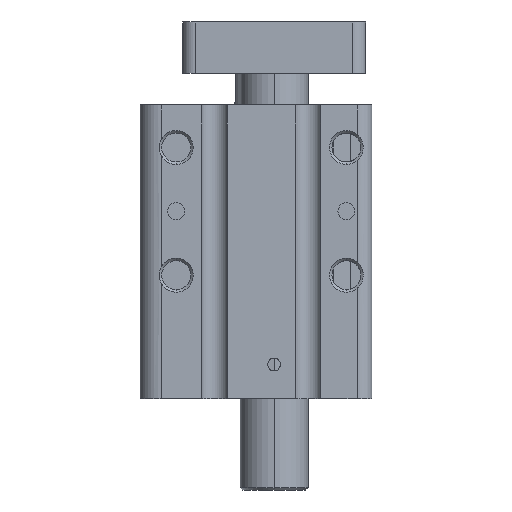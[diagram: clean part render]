
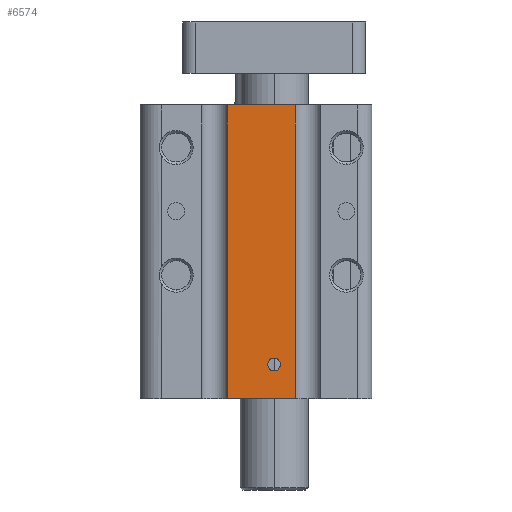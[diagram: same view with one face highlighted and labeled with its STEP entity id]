
A CAD part, left-side view. The second image highlights one B-rep face of the part: STEP entity #6574.
In plain terms, the highlighted planar face has unit normal (-1, 0, 0).
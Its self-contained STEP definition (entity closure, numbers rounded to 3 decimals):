
#331=DIRECTION('',(0.,1.,0.));
#332=VECTOR('',#331,16.);
#333=CARTESIAN_POINT('',(-62.,-9.,0.));
#334=LINE('',#333,#332);
#609=DIRECTION('',(0.,1.,0.));
#610=VECTOR('',#609,16.);
#611=CARTESIAN_POINT('',(-62.,-9.,-69.));
#612=LINE('',#611,#610);
#2190=DIRECTION('',(0.,0.,-1.));
#2191=VECTOR('',#2190,69.);
#2192=CARTESIAN_POINT('',(-62.,-9.,0.));
#2193=LINE('',#2192,#2191);
#2194=CARTESIAN_POINT('',(-62.,-4.,-61.));
#2195=DIRECTION('',(-1.,0.,0.));
#2196=DIRECTION('',(0.,1.,0.));
#2197=AXIS2_PLACEMENT_3D('',#2194,#2195,#2196);
#2199=CARTESIAN_POINT('',(-62.,-4.,-61.));
#2200=DIRECTION('',(-1.,0.,0.));
#2201=DIRECTION('',(0.,-1.,0.));
#2202=AXIS2_PLACEMENT_3D('',#2199,#2200,#2201);
#2208=DIRECTION('',(0.,0.,-1.));
#2209=VECTOR('',#2208,69.);
#2210=CARTESIAN_POINT('',(-62.,7.,0.));
#2211=LINE('',#2210,#2209);
#3102=CARTESIAN_POINT('',(-62.,-9.,0.));
#3103=VERTEX_POINT('',#3102);
#3104=CARTESIAN_POINT('',(-62.,7.,0.));
#3105=VERTEX_POINT('',#3104);
#3186=CARTESIAN_POINT('',(-62.,-9.,-69.));
#3187=VERTEX_POINT('',#3186);
#3188=CARTESIAN_POINT('',(-62.,7.,-69.));
#3189=VERTEX_POINT('',#3188);
#3392=CARTESIAN_POINT('',(-62.,-2.5,-61.));
#3393=CARTESIAN_POINT('',(-62.,-5.5,-61.));
#3394=VERTEX_POINT('',#3392);
#3395=VERTEX_POINT('',#3393);
#6556=CARTESIAN_POINT('',(-62.,-9.,0.));
#6557=DIRECTION('',(-1.,0.,0.));
#6558=DIRECTION('',(0.,1.,0.));
#6559=AXIS2_PLACEMENT_3D('',#6556,#6557,#6558);
#6560=PLANE('',#6559);
#6561=ORIENTED_EDGE('',*,*,#3987,.F.);
#6563=ORIENTED_EDGE('',*,*,#6562,.T.);
#6564=ORIENTED_EDGE('',*,*,#4450,.T.);
#6566=ORIENTED_EDGE('',*,*,#6565,.F.);
#6567=EDGE_LOOP('',(#6561,#6563,#6564,#6566));
#6568=FACE_OUTER_BOUND('',#6567,.F.);
#6569=ORIENTED_EDGE('',*,*,#6546,.T.);
#6571=ORIENTED_EDGE('',*,*,#6570,.T.);
#6572=EDGE_LOOP('',(#6569,#6571));
#6573=FACE_BOUND('',#6572,.F.);
#6574=ADVANCED_FACE('',(#6568,#6573),#6560,.T.);
#2198=CIRCLE('',#2197,1.5);
#2203=CIRCLE('',#2202,1.5);
#3987=EDGE_CURVE('',#3103,#3105,#334,.T.);
#4450=EDGE_CURVE('',#3187,#3189,#612,.T.);
#6546=EDGE_CURVE('',#3394,#3395,#2198,.T.);
#6562=EDGE_CURVE('',#3103,#3187,#2193,.T.);
#6565=EDGE_CURVE('',#3105,#3189,#2211,.T.);
#6570=EDGE_CURVE('',#3395,#3394,#2203,.T.);
